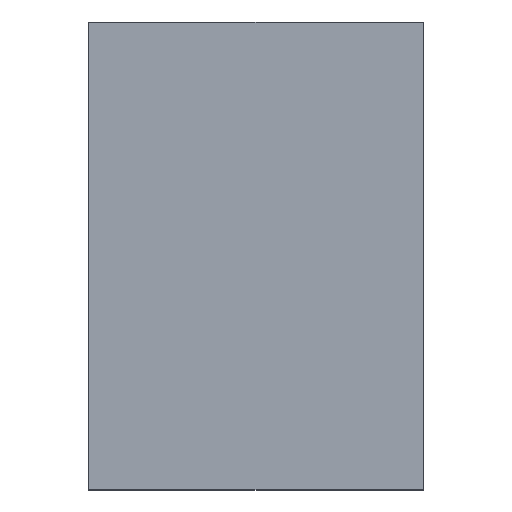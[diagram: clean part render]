
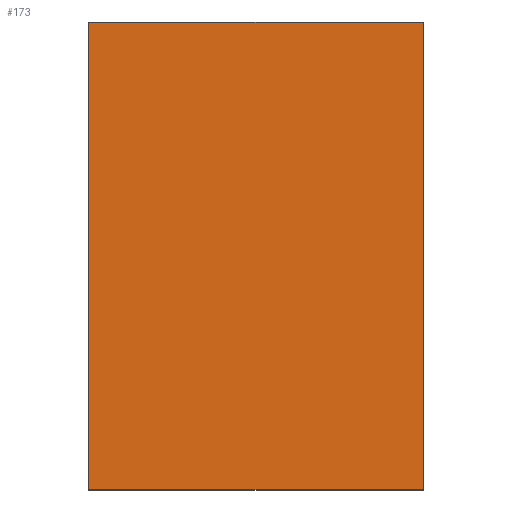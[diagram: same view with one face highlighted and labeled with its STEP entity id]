
A CAD part, top view. The second image highlights one B-rep face of the part: STEP entity #173.
In plain terms, the highlighted planar face has unit normal (0, 0, 1).
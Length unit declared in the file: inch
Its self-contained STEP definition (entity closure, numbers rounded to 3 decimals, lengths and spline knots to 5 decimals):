
#4 = CARTESIAN_POINT ( 'NONE',  ( 2.75, 0., 0.345 ) ) ;
#5 = PLANE ( 'NONE',  #183 ) ;
#7 = CARTESIAN_POINT ( 'NONE',  ( 0., 3.845, 0.345 ) ) ;
#9 = CARTESIAN_POINT ( 'NONE',  ( 0., 3.845, 0.345 ) ) ;
#12 = CARTESIAN_POINT ( 'NONE',  ( 0., 3.845, 0.345 ) ) ;
#16 = DIRECTION ( 'NONE',  ( -1., 0., 0. ) ) ;
#20 = DIRECTION ( 'NONE',  ( -1., 0., 0. ) ) ;
#24 = DIRECTION ( 'NONE',  ( 0., 0., -1. ) ) ;
#25 = CARTESIAN_POINT ( 'NONE',  ( 0., 0., 0.345 ) ) ;
#26 = DIRECTION ( 'NONE',  ( 1., 0., 0. ) ) ;
#31 = CARTESIAN_POINT ( 'NONE',  ( 0., 0., 0.345 ) ) ;
#36 = CARTESIAN_POINT ( 'NONE',  ( 2.75, 3.845, 0.345 ) ) ;
#37 = CARTESIAN_POINT ( 'NONE',  ( 2.75, 0., 0.345 ) ) ;
#39 = CARTESIAN_POINT ( 'NONE',  ( 0., 0., 0.345 ) ) ;
#42 = DIRECTION ( 'NONE',  ( 0., -1., 0. ) ) ;
#76 = DIRECTION ( 'NONE',  ( 0., 1., 0. ) ) ;
#89 = LINE ( 'NONE', #39, #97 ) ;
#97 = VECTOR ( 'NONE', #42, 39.37008 ) ;
#108 = VERTEX_POINT ( 'NONE', #4 ) ;
#114 = ORIENTED_EDGE ( 'NONE', *, *, #202, .T. ) ;
#119 = VERTEX_POINT ( 'NONE', #36 ) ;
#122 = ORIENTED_EDGE ( 'NONE', *, *, #176, .T. ) ;
#127 = ORIENTED_EDGE ( 'NONE', *, *, #175, .T. ) ;
#129 = VERTEX_POINT ( 'NONE', #12 ) ;
#131 = VERTEX_POINT ( 'NONE', #31 ) ;
#134 = ORIENTED_EDGE ( 'NONE', *, *, #179, .T. ) ;
#139 = EDGE_LOOP ( 'NONE', ( #114, #127, #134, #122 ) ) ;
#147 = LINE ( 'NONE', #37, #156 ) ;
#149 = FACE_OUTER_BOUND ( 'NONE', #139, .T. ) ;
#153 = VECTOR ( 'NONE', #26, 39.37008 ) ;
#154 = LINE ( 'NONE', #9, #159 ) ;
#156 = VECTOR ( 'NONE', #76, 39.37008 ) ;
#158 = LINE ( 'NONE', #25, #153 ) ;
#159 = VECTOR ( 'NONE', #20, 39.37008 ) ;
#173 = ADVANCED_FACE ( 'NONE', ( #149 ), #5, .F. ) ;
#175 = EDGE_CURVE ( 'NONE', #131, #108, #158, .T. ) ;
#176 = EDGE_CURVE ( 'NONE', #119, #129, #154, .T. ) ;
#179 = EDGE_CURVE ( 'NONE', #108, #119, #147, .T. ) ;
#183 = AXIS2_PLACEMENT_3D ( 'NONE', #7, #24, #16 ) ;
#202 = EDGE_CURVE ( 'NONE', #129, #131, #89, .T. ) ;
